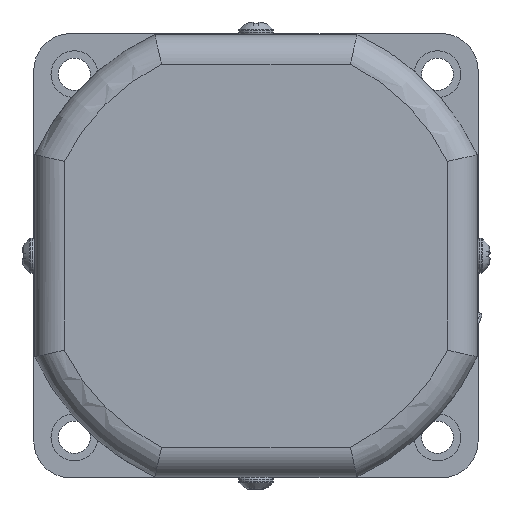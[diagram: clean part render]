
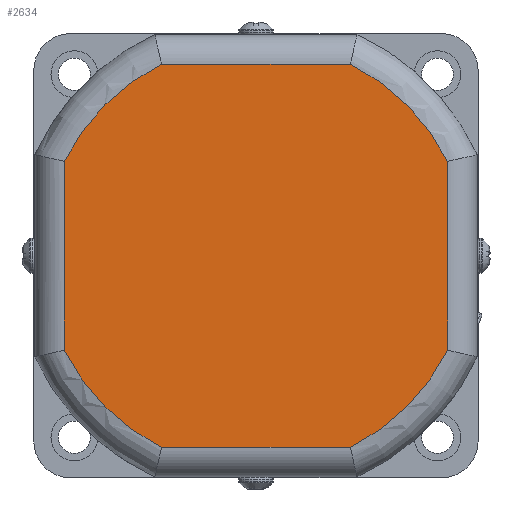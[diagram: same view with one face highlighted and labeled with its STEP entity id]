
A CAD part, left-side view. The second image highlights one B-rep face of the part: STEP entity #2634.
In plain terms, the highlighted planar face has unit normal (-1, 0, 0).
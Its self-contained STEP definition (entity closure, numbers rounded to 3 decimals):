
#2147=CARTESIAN_POINT('',(-23.,-19.108,-38.8));
#2148=VERTEX_POINT('',#2147);
#2175=CARTESIAN_POINT('',(-23.,-38.8,-19.108));
#2176=VERTEX_POINT('',#2175);
#2194=CARTESIAN_POINT('',(-23.,0.,0.));
#2195=DIRECTION('',(1.,0.,0.));
#2196=DIRECTION('',(0.,-0.707,-0.707));
#2197=AXIS2_PLACEMENT_3D('',#2194,#2195,#2196);
#2198=CIRCLE('',#2197,43.25);
#2199=EDGE_CURVE('',#2176,#2148,#2198,.T.);
#2211=CARTESIAN_POINT('',(-23.,-38.8,19.108));
#2212=VERTEX_POINT('',#2211);
#2230=CARTESIAN_POINT('',(-23.,-38.8,19.108));
#2231=DIRECTION('',(0.0,0.0,-1.0));
#2232=VECTOR('',#2231,38.216);
#2233=LINE('',#2230,#2232);
#2234=EDGE_CURVE('',#2212,#2176,#2233,.T.);
#2253=CARTESIAN_POINT('',(-23.,19.108,-38.8));
#2254=VERTEX_POINT('',#2253);
#2279=CARTESIAN_POINT('',(-23.,-19.108,-38.8));
#2280=DIRECTION('',(0.0,1.0,0.0));
#2281=VECTOR('',#2280,38.216);
#2282=LINE('',#2279,#2281);
#2283=EDGE_CURVE('',#2148,#2254,#2282,.T.);
#2295=CARTESIAN_POINT('',(-23.,-19.108,38.8));
#2296=VERTEX_POINT('',#2295);
#2314=CARTESIAN_POINT('',(-23.,0.,0.));
#2315=DIRECTION('',(1.,0.,0.));
#2316=DIRECTION('',(0.,-0.707,0.707));
#2317=AXIS2_PLACEMENT_3D('',#2314,#2315,#2316);
#2318=CIRCLE('',#2317,43.25);
#2319=EDGE_CURVE('',#2296,#2212,#2318,.T.);
#2339=CARTESIAN_POINT('',(-23.,38.8,-19.108));
#2340=VERTEX_POINT('',#2339);
#2366=CARTESIAN_POINT('',(-23.,0.,0.));
#2367=DIRECTION('',(1.0,0.,0.));
#2368=DIRECTION('',(0.,0.707,-0.707));
#2369=AXIS2_PLACEMENT_3D('',#2366,#2367,#2368);
#2370=CIRCLE('',#2369,43.25);
#2371=EDGE_CURVE('',#2254,#2340,#2370,.T.);
#2383=CARTESIAN_POINT('',(-23.,19.108,38.8));
#2384=VERTEX_POINT('',#2383);
#2402=CARTESIAN_POINT('',(-23.,19.108,38.8));
#2403=DIRECTION('',(0.0,-1.0,0.0));
#2404=VECTOR('',#2403,38.216);
#2405=LINE('',#2402,#2404);
#2406=EDGE_CURVE('',#2384,#2296,#2405,.T.);
#2423=CARTESIAN_POINT('',(-23.,38.8,19.108));
#2424=VERTEX_POINT('',#2423);
#2451=CARTESIAN_POINT('',(-23.,38.8,-19.108));
#2452=DIRECTION('',(0.0,0.0,1.0));
#2453=VECTOR('',#2452,38.216);
#2454=LINE('',#2451,#2453);
#2455=EDGE_CURVE('',#2340,#2424,#2454,.T.);
#2466=CARTESIAN_POINT('',(-23.,0.,0.));
#2467=DIRECTION('',(1.0,0.,0.));
#2468=DIRECTION('',(0.,0.707,0.707));
#2469=AXIS2_PLACEMENT_3D('',#2466,#2467,#2468);
#2470=CIRCLE('',#2469,43.25);
#2471=EDGE_CURVE('',#2424,#2384,#2470,.T.);
#2619=CARTESIAN_POINT('',(-23.,0.,0.));
#2620=DIRECTION('',(1.0,0.0,0.0));
#2621=DIRECTION('',(0.0,0.0,-1.0));
#2622=AXIS2_PLACEMENT_3D('',#2619,#2620,#2621);
#2623=PLANE('',#2622);
#2624=ORIENTED_EDGE('',*,*,#2455,.F.);
#2625=ORIENTED_EDGE('',*,*,#2371,.F.);
#2626=ORIENTED_EDGE('',*,*,#2283,.F.);
#2627=ORIENTED_EDGE('',*,*,#2199,.F.);
#2628=ORIENTED_EDGE('',*,*,#2234,.F.);
#2629=ORIENTED_EDGE('',*,*,#2319,.F.);
#2630=ORIENTED_EDGE('',*,*,#2406,.F.);
#2631=ORIENTED_EDGE('',*,*,#2471,.F.);
#2632=EDGE_LOOP('',(#2624,#2625,#2626,#2627,#2628,#2629,#2630,#2631));
#2633=FACE_OUTER_BOUND('',#2632,.T.);
#2634=ADVANCED_FACE('',(#2633),#2623,.F.);
